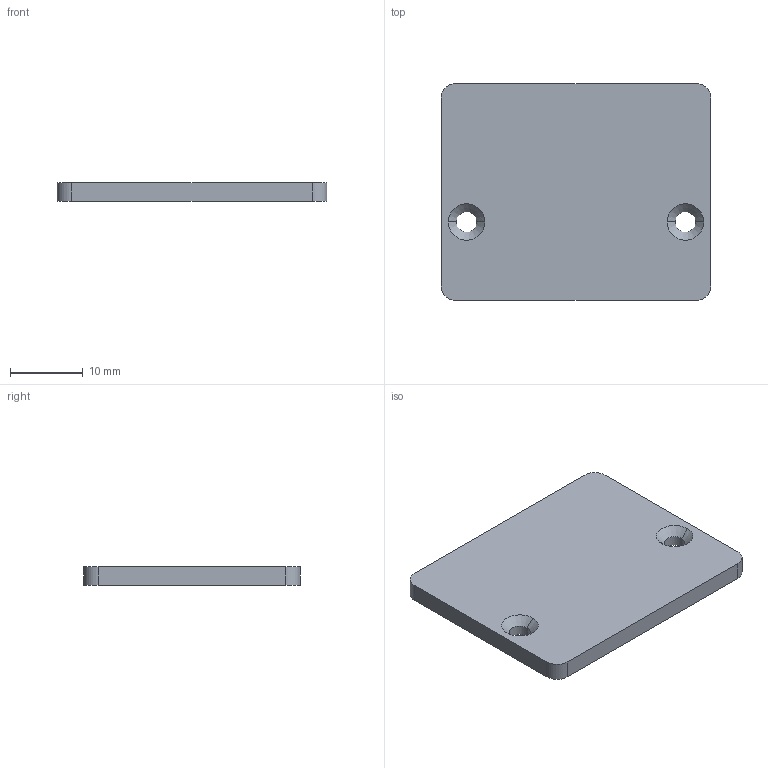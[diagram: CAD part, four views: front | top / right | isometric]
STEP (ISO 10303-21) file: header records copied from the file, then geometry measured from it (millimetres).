
FILE_DESCRIPTION (( 'STEP AP214' ), '1' );
FILE_NAME ('散热垫片.STEP', '2024-06-03T02:42:12', ( '' ), ( '' ), 'SwSTEP 2.0', 'SolidWorks 2021', '' );
FILE_SCHEMA (( 'AUTOMOTIVE_DESIGN' ));
Length unit declared in the file: millimetre
Products named in the file (1): 散热垫片
Bounding box: 37 x 29.73 x 2.5 mm (x, y, z)
Volume: 2697.6 mm3; surface area: 2529.7 mm2
Topology: 1 solids, 1 shells, 18 faces, 44 edges, 28 vertices
Faces by surface type: cylinder 8, plane 6, cone 4
Entity records: 578 total; most frequent: DIRECTION 102, CARTESIAN_POINT 91, ORIENTED_EDGE 88, EDGE_CURVE 44, AXIS2_PLACEMENT_3D 39, VERTEX_POINT 28, VECTOR 24, LINE 24
